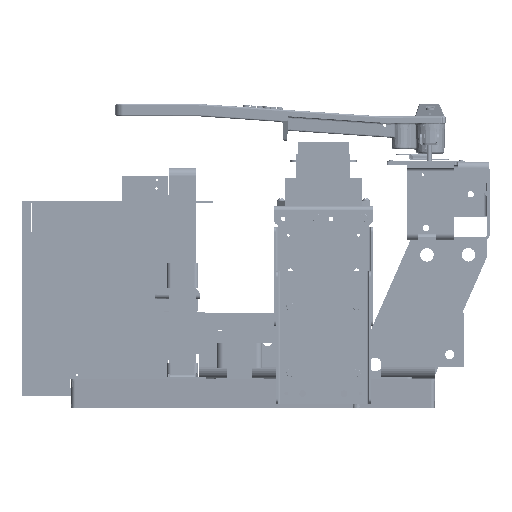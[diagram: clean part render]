
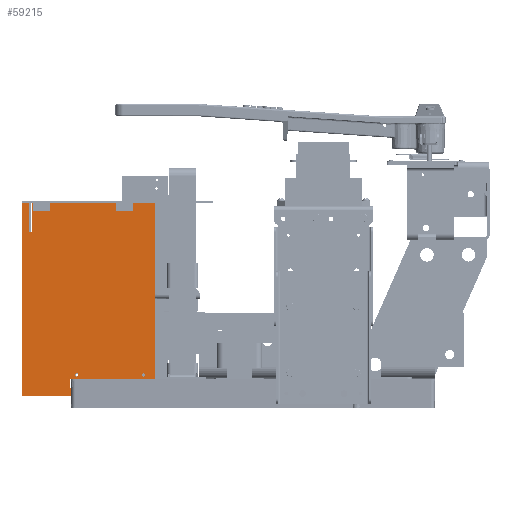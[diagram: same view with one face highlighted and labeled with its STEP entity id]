
A CAD part, left-side view. The second image highlights one B-rep face of the part: STEP entity #59215.
In plain terms, the highlighted planar face has unit normal (-1, 0, 0) as drawn and (0, 0, -1) by its records, which use the part's own axes.
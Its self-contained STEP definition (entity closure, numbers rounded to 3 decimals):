
#2725=FACE_BOUND('',#12126,.T.);
#2726=FACE_BOUND('',#12127,.T.);
#2727=FACE_BOUND('',#12128,.T.);
#2728=FACE_BOUND('',#12129,.T.);
#4582=CIRCLE('',#65058,0.097);
#4584=CIRCLE('',#65061,0.097);
#4586=CIRCLE('',#65064,0.097);
#4588=CIRCLE('',#65067,0.097);
#8400=FACE_OUTER_BOUND('',#12125,.T.);
#12125=EDGE_LOOP('',(#48771,#48772,#48773,#48774,#48775,#48776,#48777,#48778,
#48779,#48780,#48781,#48782));
#12126=EDGE_LOOP('',(#48783));
#12127=EDGE_LOOP('',(#48784));
#12128=EDGE_LOOP('',(#48785));
#12129=EDGE_LOOP('',(#48786));
#16971=LINE('',#100161,#22260);
#16975=LINE('',#100169,#22264);
#16978=LINE('',#100175,#22267);
#16981=LINE('',#100181,#22270);
#16984=LINE('',#100187,#22273);
#16987=LINE('',#100193,#22276);
#16990=LINE('',#100199,#22279);
#16993=LINE('',#100205,#22282);
#16996=LINE('',#100211,#22285);
#16999=LINE('',#100217,#22288);
#17002=LINE('',#100223,#22291);
#17005=LINE('',#100228,#22294);
#22260=VECTOR('',#77366,0.394);
#22264=VECTOR('',#77372,0.394);
#22267=VECTOR('',#77377,0.394);
#22270=VECTOR('',#77382,0.394);
#22273=VECTOR('',#77387,0.394);
#22276=VECTOR('',#77392,0.394);
#22279=VECTOR('',#77397,0.394);
#22282=VECTOR('',#77402,0.394);
#22285=VECTOR('',#77407,0.394);
#22288=VECTOR('',#77412,0.394);
#22291=VECTOR('',#77417,0.394);
#22294=VECTOR('',#77422,0.394);
#27740=VERTEX_POINT('',#100135);
#27742=VERTEX_POINT('',#100141);
#27744=VERTEX_POINT('',#100147);
#27746=VERTEX_POINT('',#100153);
#27748=VERTEX_POINT('',#100159);
#27749=VERTEX_POINT('',#100160);
#27752=VERTEX_POINT('',#100168);
#27754=VERTEX_POINT('',#100174);
#27756=VERTEX_POINT('',#100180);
#27758=VERTEX_POINT('',#100186);
#27760=VERTEX_POINT('',#100192);
#27762=VERTEX_POINT('',#100198);
#27764=VERTEX_POINT('',#100204);
#27766=VERTEX_POINT('',#100210);
#27768=VERTEX_POINT('',#100216);
#27770=VERTEX_POINT('',#100222);
#35041=EDGE_CURVE('',#27740,#27740,#4582,.T.);
#35044=EDGE_CURVE('',#27742,#27742,#4584,.T.);
#35047=EDGE_CURVE('',#27744,#27744,#4586,.T.);
#35050=EDGE_CURVE('',#27746,#27746,#4588,.T.);
#35053=EDGE_CURVE('',#27748,#27749,#16971,.T.);
#35057=EDGE_CURVE('',#27752,#27748,#16975,.T.);
#35060=EDGE_CURVE('',#27754,#27752,#16978,.T.);
#35063=EDGE_CURVE('',#27756,#27754,#16981,.T.);
#35066=EDGE_CURVE('',#27758,#27756,#16984,.T.);
#35069=EDGE_CURVE('',#27760,#27758,#16987,.T.);
#35072=EDGE_CURVE('',#27762,#27760,#16990,.T.);
#35075=EDGE_CURVE('',#27764,#27762,#16993,.T.);
#35078=EDGE_CURVE('',#27766,#27764,#16996,.T.);
#35081=EDGE_CURVE('',#27768,#27766,#16999,.T.);
#35084=EDGE_CURVE('',#27770,#27768,#17002,.T.);
#35087=EDGE_CURVE('',#27749,#27770,#17005,.T.);
#48771=ORIENTED_EDGE('',*,*,#35087,.F.);
#48772=ORIENTED_EDGE('',*,*,#35053,.F.);
#48773=ORIENTED_EDGE('',*,*,#35057,.F.);
#48774=ORIENTED_EDGE('',*,*,#35060,.F.);
#48775=ORIENTED_EDGE('',*,*,#35063,.F.);
#48776=ORIENTED_EDGE('',*,*,#35066,.F.);
#48777=ORIENTED_EDGE('',*,*,#35069,.F.);
#48778=ORIENTED_EDGE('',*,*,#35072,.F.);
#48779=ORIENTED_EDGE('',*,*,#35075,.F.);
#48780=ORIENTED_EDGE('',*,*,#35078,.F.);
#48781=ORIENTED_EDGE('',*,*,#35081,.F.);
#48782=ORIENTED_EDGE('',*,*,#35084,.F.);
#48783=ORIENTED_EDGE('',*,*,#35041,.T.);
#48784=ORIENTED_EDGE('',*,*,#35044,.T.);
#48785=ORIENTED_EDGE('',*,*,#35047,.T.);
#48786=ORIENTED_EDGE('',*,*,#35050,.T.);
#56549=PLANE('',#65082);
#59215=ADVANCED_FACE('',(#8400,#2725,#2726,#2727,#2728),#56549,.F.);
#65058=AXIS2_PLACEMENT_3D('',#100136,#77338,#77339);
#65061=AXIS2_PLACEMENT_3D('',#100142,#77345,#77346);
#65064=AXIS2_PLACEMENT_3D('',#100148,#77352,#77353);
#65067=AXIS2_PLACEMENT_3D('',#100154,#77359,#77360);
#65082=AXIS2_PLACEMENT_3D('',#100231,#77426,#77427);
#77338=DIRECTION('center_axis',(0.,0.,1.));
#77339=DIRECTION('ref_axis',(-1.,0.,0.));
#77345=DIRECTION('center_axis',(0.,0.,1.));
#77346=DIRECTION('ref_axis',(-1.,0.,0.));
#77352=DIRECTION('center_axis',(0.,0.,1.));
#77353=DIRECTION('ref_axis',(-1.,0.,0.));
#77359=DIRECTION('center_axis',(0.,0.,1.));
#77360=DIRECTION('ref_axis',(-1.,0.,0.));
#77366=DIRECTION('',(1.,0.,0.));
#77372=DIRECTION('',(0.,1.,0.));
#77377=DIRECTION('',(1.,0.,0.));
#77382=DIRECTION('',(0.,-1.,0.));
#77387=DIRECTION('',(-1.,0.,0.));
#77392=DIRECTION('',(0.,-1.,0.));
#77397=DIRECTION('',(1.,0.,0.));
#77402=DIRECTION('',(0.,-1.,0.));
#77407=DIRECTION('',(-1.,0.,0.));
#77412=DIRECTION('',(0.,1.,0.));
#77417=DIRECTION('',(1.,0.,0.));
#77422=DIRECTION('',(0.,-1.,0.));
#77426=DIRECTION('center_axis',(0.,0.,1.));
#77427=DIRECTION('ref_axis',(1.,0.,0.));
#100135=CARTESIAN_POINT('',(0.347,2.,0.));
#100136=CARTESIAN_POINT('Origin',(0.25,2.,0.));
#100141=CARTESIAN_POINT('',(0.347,7.,0.));
#100142=CARTESIAN_POINT('Origin',(0.25,7.,0.));
#100147=CARTESIAN_POINT('',(10.472,0.688,0.));
#100148=CARTESIAN_POINT('Origin',(10.375,0.688,0.));
#100153=CARTESIAN_POINT('',(10.472,4.688,0.));
#100154=CARTESIAN_POINT('Origin',(10.375,4.688,0.));
#100159=CARTESIAN_POINT('',(10.625,5.094,0.));
#100160=CARTESIAN_POINT('',(11.156,5.094,0.));
#100161=CARTESIAN_POINT('',(10.625,5.094,0.));
#100168=CARTESIAN_POINT('',(10.625,0.,0.));
#100169=CARTESIAN_POINT('',(10.625,0.,0.));
#100174=CARTESIAN_POINT('',(0.,0.,0.));
#100175=CARTESIAN_POINT('',(0.,0.,0.));
#100180=CARTESIAN_POINT('',(0.,7.422,0.));
#100181=CARTESIAN_POINT('',(0.,7.422,0.));
#100186=CARTESIAN_POINT('',(1.75,7.422,0.));
#100187=CARTESIAN_POINT('',(1.75,7.422,0.));
#100192=CARTESIAN_POINT('',(1.75,7.578,0.));
#100193=CARTESIAN_POINT('',(1.75,7.578,0.));
#100198=CARTESIAN_POINT('',(0.,7.578,0.));
#100199=CARTESIAN_POINT('',(0.,7.578,0.));
#100204=CARTESIAN_POINT('',(0.,8.,0.));
#100205=CARTESIAN_POINT('',(0.,8.,0.));
#100210=CARTESIAN_POINT('',(11.625,8.,0.));
#100211=CARTESIAN_POINT('',(11.625,8.,0.));
#100216=CARTESIAN_POINT('',(11.625,4.719,0.));
#100217=CARTESIAN_POINT('',(11.625,4.719,0.));
#100222=CARTESIAN_POINT('',(11.156,4.719,0.));
#100223=CARTESIAN_POINT('',(11.156,4.719,0.));
#100228=CARTESIAN_POINT('',(11.156,5.094,0.));
#100231=CARTESIAN_POINT('Origin',(5.401,4.41,0.));
